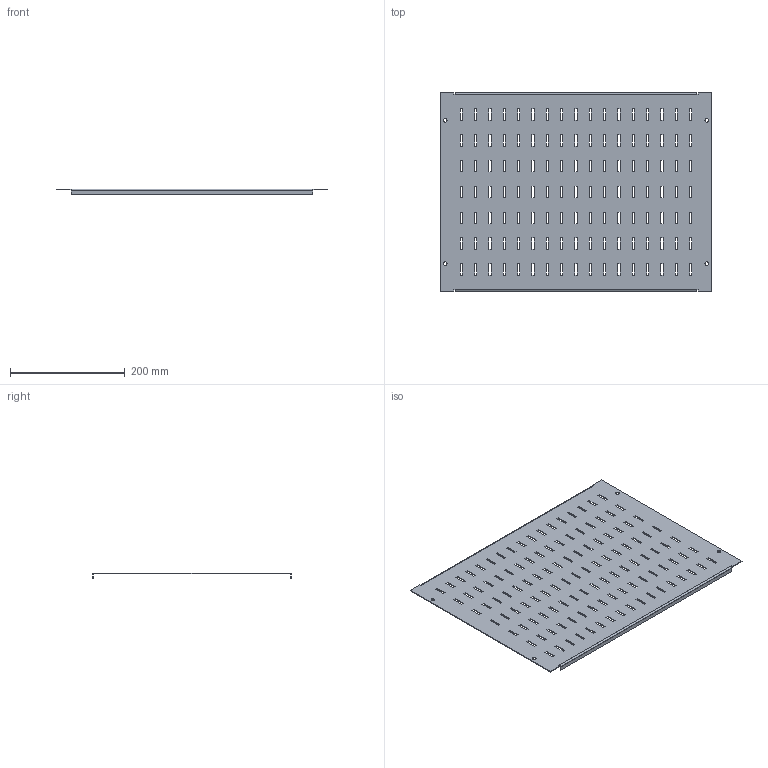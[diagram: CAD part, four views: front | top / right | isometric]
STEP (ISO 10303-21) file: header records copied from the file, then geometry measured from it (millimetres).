
FILE_DESCRIPTION(('STEP AP203'), '1');
FILE_NAME('Ïëàñòðîí ïåðôîðèðîâàííûé 350õ600 ìì OptiBox M 419445 ÊÝÀÇ', '', ('UNSPECIFIED'), ('UNSPECIFIED'), 'C3D Converter', 'C3D Toolkit', '');
FILE_SCHEMA(('CONFIG_CONTROL_DESIGN'));
Length unit declared in the file: millimetre
Bounding box: 472 x 347 x 10 mm (x, y, z)
Volume: 224653.1 mm3; surface area: 331411.8 mm2
Topology: 1 solids, 1 shells, 514 faces, 1520 edges, 1008 vertices
Faces by surface type: plane 506, cylinder 8
Full cylindrical faces by diameter (mm): 6.3 x4
Entity records: 17304 total; most frequent: CARTESIAN_POINT 3039, ORIENTED_EDGE 3032, DIRECTION 2562, EDGE_CURVE 1516, LINE 1500, VECTOR 1500, VERTEX_POINT 1008, EDGE_LOOP 764
